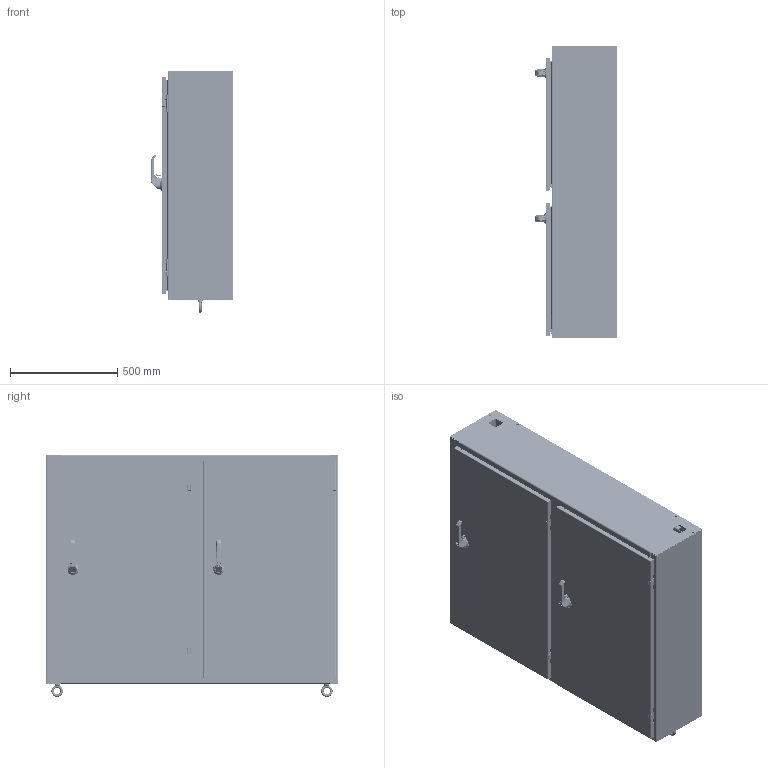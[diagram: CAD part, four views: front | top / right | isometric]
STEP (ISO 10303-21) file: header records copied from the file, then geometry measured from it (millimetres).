
FILE_DESCRIPTION((''),'2;1');
FILE_NAME('MODEL-214_ASM','2021-07-07T11:59:27',('chads'),('SAGINAW CONTROL & ENGINEERING'),'CREO PARAMETRIC BY PTC INC, 2017260','CREO PARAMETRIC BY PTC INC, 2017260','');
FILE_SCHEMA(('AUTOMOTIVE_DESIGN { 1 0 10303 214 1 1 1 1 }'));
Length unit declared in the file: inch
Products named in the file (114): MODEL-214-BDY; MODEL-214-TP; MODEL-214-BTM; 128003; 100028; 128003_ASM; MODEL-214-CCA-CHNL; MODEL-214-CCA-STIF; 100062; 128004; 128007; 102535; 100057; MODEL-214-CCASSY_ASM; MODEL-214-MN-DR; 100837; 100882; 111267; 100953_HANDLE; 100953_HANDLE_INSERT; 100953_SHAFT_CAM; 100953_ADAPTER_CAM; 100953_NUT_CAM; 100953_BASE; 100953_NUT_MOUNTING_LARGE; 100953_NUT_MOUNTING_SMALL; 100953_SCREW_SMALL; 100953_INSERT; 100953_PADLOCK_CATCH; 100953_STOP_CAM; 100953_ASM; 102237; 100030; 102237_ASM; MODEL-214-ROD-UPR-RH; 128146; 128145; 128144; 102482; MODEL-214-ROD-UPR-RH_ASM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
Assembly tree (220 placements, depth 4):
  MODEL-214_ASM
    MODEL-214-BDY
    MODEL-214-TP
    MODEL-214-BTM
    128003_ASM  x2
      128003
      100028
    MODEL-214-CCASSY_ASM
      MODEL-214-CCA-CHNL
      MODEL-214-CCA-STIF
      100062  x4
      128004  x2
      128007  x2
      102535  x8
      100057  x2
    MODEL-214-MN-DOOR-ASSY_ASM
      MODEL-214-MN-DR
      100837  x7
      100882  x8
      111267
      100953_ASM
        100953_HANDLE
        100953_HANDLE_INSERT
        100953_SHAFT_CAM
        100953_ADAPTER_CAM
        100953_NUT_CAM
        100953_BASE
        100953_NUT_MOUNTING_LARGE
        100953_NUT_MOUNTING_SMALL
        100953_SCREW_SMALL
        100953_INSERT
        100953_PADLOCK_CATCH
        100953_STOP_CAM
      102237_ASM
        102237
        100030  x2
      MODEL-214-ROD-UPR-RH_ASM
        MODEL-214-ROD-UPR-RH
        128146
        128145
        128144
        102482  x2
      128143  x2
      112504  x2
      MODEL-214-ROD-LWR-RH_ASM
        MODEL-214-ROD-LWR-RH
        128146
        128145
        128144
        102482  x2
      MODEL-214-PR-GSKT-M
      126391_ASM  x2
        126391
        126397
      126393  x2
      102483  x2
      101369_ASM  x2
        101369
        101369-STUD
      101221  x2
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Bounding box: 381.44 x 1365.25 x 1127.96 mm (x, y, z)
Volume: 18141631.9 mm3; surface area: 13631747.2 mm2
Topology: 227 solids, 227 shells, 16552 faces, 42144 edges, 26051 vertices
Faces by surface type: plane 5860, cylinder 4454, bspline 3362, cone 1195, torus 1157, sphere 524
Entity records: 379825 total; most frequent: CARTESIAN_POINT 117821, ORIENTED_EDGE 38912, DIRECTION 36622, EDGE_CURVE 19456, PRESENTATION_STYLE_ASSIGNMENT 18161, STYLED_ITEM 17898, CURVE_STYLE 17791, AXIS2_PLACEMENT_3D 13721
